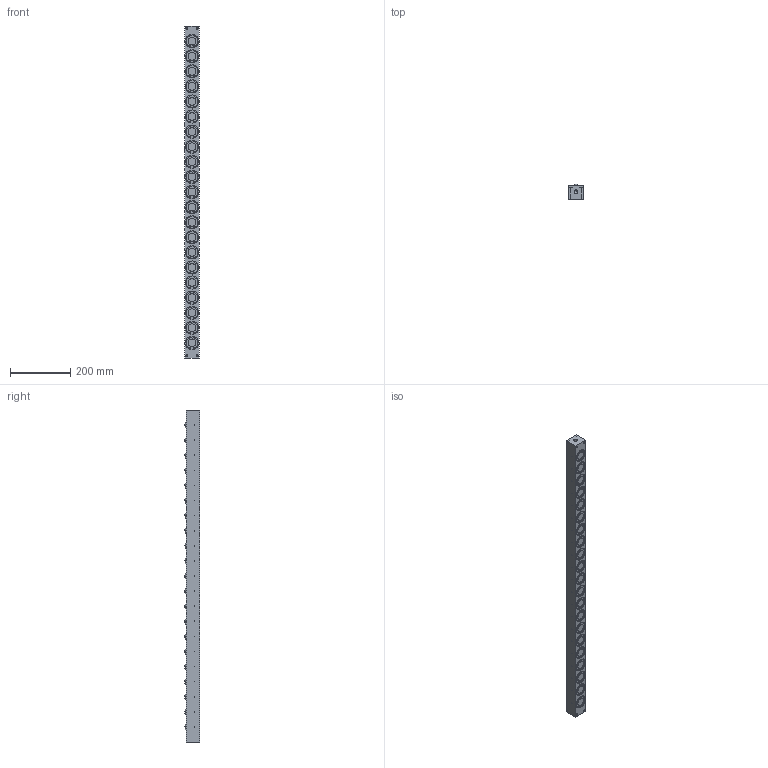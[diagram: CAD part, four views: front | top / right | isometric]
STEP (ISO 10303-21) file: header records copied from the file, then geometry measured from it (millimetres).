
FILE_DESCRIPTION (( 'STEP AP203' ), '1' );
FILE_NAME ('PVL55SW-21.STEP', '2016-02-18T07:35:05', ( '' ), ( '' ), 'SwSTEP 2.0', 'SolidWorks 2013', '' );
FILE_SCHEMA (( 'CONFIG_CONTROL_DESIGN' ));
Length unit declared in the file: millimetre
Products named in the file (1): PVL55SW-21
Bounding box: 49 x 50 x 1100 mm (x, y, z)
Volume: 2331709.9 mm3; surface area: 271058.1 mm2
Topology: 2 solids, 2 shells, 993 faces, 2315 edges, 1477 vertices
Faces by surface type: cylinder 610, plane 251, cone 90, sphere 42
Entity records: 28418 total; most frequent: DIRECTION 5565, CARTESIAN_POINT 4698, ORIENTED_EDGE 4454, AXIS2_PLACEMENT_3D 2344, EDGE_CURVE 2227, VERTEX_POINT 1477, CIRCLE 1350, EDGE_LOOP 1240
